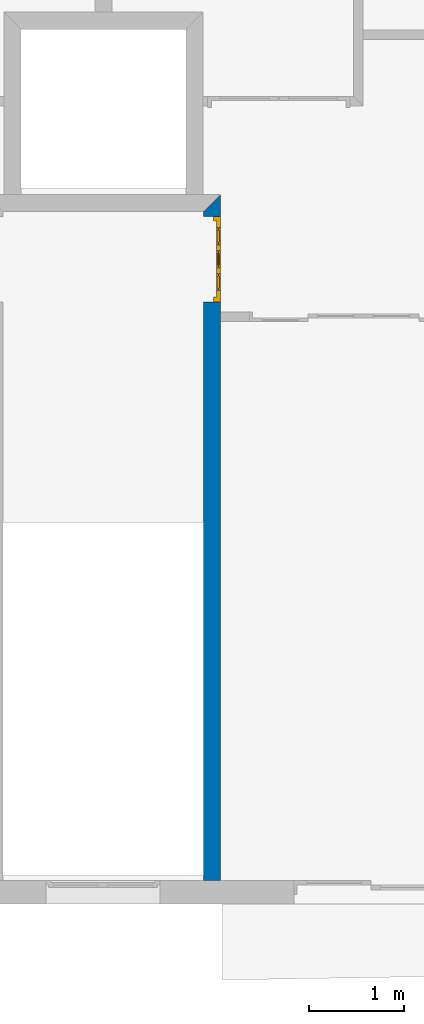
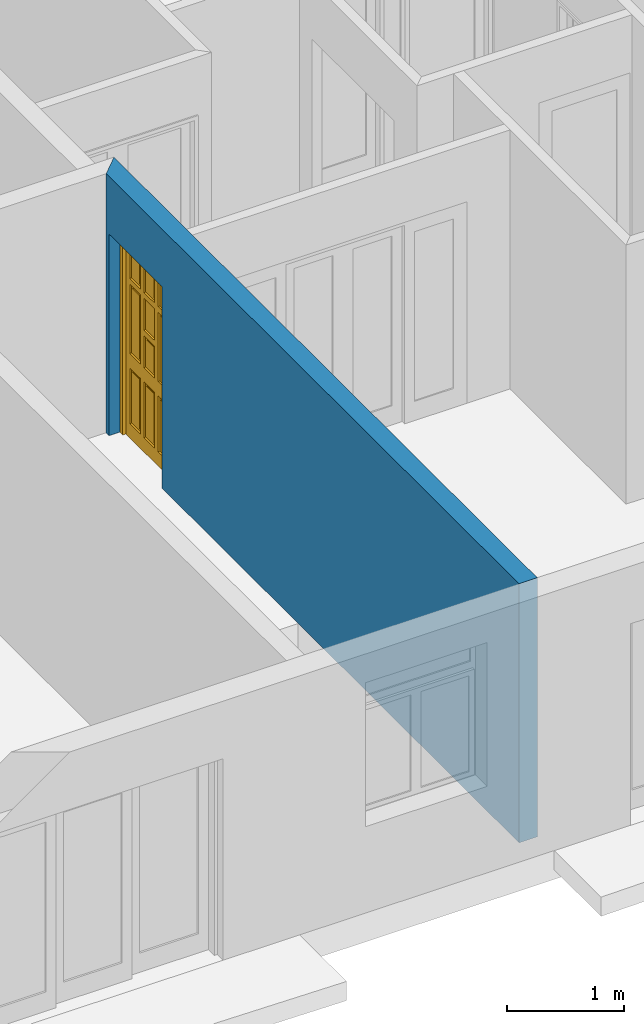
# One storey, part 7 of 12: 1 door, 1 wall, 1 opening.
"""IFC2X3 building model written with IfcOpenShell, lengths in metres."""

from ifc_helpers import new_model, entity, si_unit, converted_unit, direction, frame, frame_2d, origin_with_axes, place, context, project, spatial, polyline, rectangle, outline, extrude, faceted_brep, source, transform, mapped, material, layer, layer_set, layer_usage, type_object, element, fill, save


model = new_model("IFC2X3")

# Units and contexts
context_of_model = context(None, 3, precision=1e-05, world=origin_with_axes(), true_north=direction((6.123234e-17, 1.0)))
plan_context = context("Plan", 3, precision=1e-05, world=origin_with_axes(), true_north=direction((6.123234e-17, 1.0)))
model_context = context("Model", 3, precision=1e-05, world=origin_with_axes(), true_north=direction((6.123234e-17, 1.0)))
ifc_project = project(units=[si_unit("LENGTHUNIT", "METRE"), si_unit("AREAUNIT", "SQUARE_METRE"), si_unit("VOLUMEUNIT", "CUBIC_METRE"), converted_unit("PLANEANGLEUNIT", "DEGREE", entity("IfcPlaneAngleMeasure", 0.017453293), si_unit("PLANEANGLEUNIT", "RADIAN"), dimensions=[0, 0, 0, 0, 0, 0, 0]), si_unit("SOLIDANGLEUNIT", "STERADIAN"), si_unit("MASSUNIT", "GRAM"), si_unit("TIMEUNIT", "SECOND"), si_unit("THERMODYNAMICTEMPERATUREUNIT", "DEGREE_CELSIUS"), si_unit("LUMINOUSINTENSITYUNIT", "LUMEN")], contexts=[context_of_model, plan_context, model_context])

# Site, building, storey
site_placement = place(None, origin_with_axes())
site = spatial("IfcSite", under=ifc_project, at=site_placement, Name="Por defecto Sitio", CompositionType="ELEMENT")
building_placement = place(site_placement, origin_with_axes())
building = spatial("IfcBuilding", under=site, at=building_placement, Name="Por defecto Edificio", CompositionType="ELEMENT")
storey_placement = place(building_placement, frame((0.0, 0.0, 10.2), z_axis=(0.0, 0.0, 1.0), x_axis=(1.0, 0.0, 0.0)))
storey = spatial("IfcBuildingStorey", under=building, at=storey_placement, Name="Tercera", CompositionType="ELEMENT", Elevation=10.2)

# Wall, opening, door
ifc_material = material(Name="Ladrillo común")
ifc_layer = layer(ifc_material, 0.18, ventilated="UNKNOWN")
ifc_layer_set = layer_set([ifc_layer], Name="Ladrillo común")
ifc_layer_usage = layer_usage(ifc_layer_set, "AXIS2", "POSITIVE", 0.0)
wall_type = type_object("IfcWallType", Name="Ladrillo común", PredefinedType="NOTDEFINED")
wall_placement = place(storey_placement, frame((9.0691698, 7.2976562, 0.0), z_axis=(0.0, 0.0, 1.0), x_axis=(0.0, -1.0, 0.0)))
wall = element("IfcWallStandardCase", 1, at=wall_placement, inside=storey, type_object=wall_type, material=ifc_layer_usage, Name="Muro-010", context=context_of_model, shape_type="SweptSolid", body=[
    extrude(outline(polyline([(0.0, 0.0), (7.0476562, 0.0), (7.0476562, 0.18), (-0.18, 0.18), (0.0, 0.0)])), origin_with_axes(), (0.0, 0.0, 1.0), 2.7),
])
opening_placement = place(wall_placement, frame((0.5, 0.0, 0.0), z_axis=(0.0, 0.0, 1.0), x_axis=(1.0, 0.0, 0.0)))
opening = element("IfcOpeningElement", 2, at=opening_placement, cuts=wall, ObjectType="Opening", context=model_context, shape_type="SweptSolid", body=[
    extrude(rectangle(XDim=0.9, YDim=2.1, at=frame_2d((0.0, 1.05), x_axis=(-1.0, 0.0))), frame((0.0, 0.0, 0.0), z_axis=(0.0, 1.0, 0.0), x_axis=(-1.0, 0.0, 0.0)), (0.0, 0.0, 1.0), 0.18),
])
door_style = type_object("IfcDoorStyle", Name="P1 Entrada 12", ConstructionType="NOTDEFINED", OperationType="SINGLE_SWING_RIGHT", ParameterTakesPrecedence=False, Sizeable=False)
shared_shape = source(origin_with_axes(), model_context, "Body", "Brep", [
    faceted_brep([(0.05, 0.031, 0.0), (0.05, 0.031, 2.05), (0.05, 0.0, 2.05), (0.05, 0.0, 0.0), (0.038, 0.031, 2.05), (0.038, 0.031, 0.0), (0.038, 0.075, 2.05), (0.0, 0.075, 2.05), (0.0, 0.0, 2.05), (0.0, 0.0, 0.0), (0.0, 0.075, 0.0), (0.038, 0.075, 0.0)], [[[0, 1, 2, 3]], [[4, 1, 0, 5]], [[4, 6, 7, 8, 2, 1]], [[9, 3, 2, 8]], [[5, 0, 3, 9, 10, 11]], [[6, 4, 5, 11]], [[6, 11, 10, 7]], [[8, 7, 10, 9]]]),
    faceted_brep([(0.862, 0.031, 2.05), (0.85, 0.031, 2.05), (0.85, 0.0, 2.05), (0.9, 0.0, 2.05), (0.9, 0.075, 2.05), (0.862, 0.075, 2.05), (0.862, 0.031, 0.0), (0.85, 0.031, 0.0), (0.85, 0.0, 0.0), (0.9, 0.0, 0.0), (0.9, 0.075, 0.0), (0.862, 0.075, 0.0)], [[[0, 1, 2, 3, 4, 5]], [[1, 0, 6, 7]], [[1, 7, 8, 2]], [[8, 9, 3, 2]], [[9, 10, 4, 3]], [[11, 5, 4, 10]], [[0, 5, 11, 6]], [[6, 11, 10, 9, 8, 7]]]),
    faceted_brep([(0.038, 0.075, 2.062), (0.038, 0.075, 2.05), (0.0, 0.075, 2.05), (0.0, 0.075, 2.1), (0.9, 0.075, 2.1), (0.9, 0.075, 2.05), (0.862, 0.075, 2.05), (0.862, 0.075, 2.062), (0.038, 0.031, 2.062), (0.038, 0.031, 2.05), (0.05, 0.031, 2.05), (0.05, 0.0, 2.05), (0.0, 0.0, 2.05), (0.0, 0.0, 2.1), (0.9, 0.0, 2.1), (0.9, 0.0, 2.05), (0.862, 0.031, 2.05), (0.85, 0.0, 2.05), (0.85, 0.031, 2.05), (0.862, 0.031, 2.062)], [[[0, 1, 2, 3, 4, 5, 6, 7]], [[1, 0, 8, 9]], [[9, 10, 11, 12, 2, 1]], [[13, 3, 2, 12]], [[14, 4, 3, 13]], [[15, 5, 4, 14]], [[16, 6, 5, 15, 17, 18]], [[7, 6, 16, 19]], [[0, 7, 19, 8]], [[16, 18, 10, 9, 8, 19]], [[10, 18, 17, 11]], [[14, 13, 12, 11, 17, 15]]]),
    faceted_brep([(0.862, 0.075, 0.15), (0.862, 0.031, 0.15), (0.782, 0.031, 0.15), (0.782, 0.075, 0.15), (0.862, 0.075, 1.952), (0.862, 0.031, 1.952), (0.782, 0.031, 1.952), (0.782, 0.031, 1.6618667), (0.782, 0.031, 1.6018667), (0.782, 0.031, 0.88), (0.782, 0.031, 0.73), (0.782, 0.075, 0.73), (0.782, 0.075, 0.88), (0.782, 0.075, 1.6018667), (0.782, 0.075, 1.6618667), (0.782, 0.075, 1.952)], [[[0, 1, 2, 3]], [[4, 5, 1, 0]], [[1, 5, 6, 7, 8, 9, 10, 2]], [[3, 2, 10, 11]], [[0, 3, 11, 12, 13, 14, 15, 4]], [[15, 6, 5, 4]], [[14, 7, 6, 15]], [[13, 8, 7, 14]], [[12, 9, 8, 13]], [[11, 10, 9, 12]]]),
    faceted_brep([(0.038, 0.075, 0.15), (0.038, 0.031, 0.15), (0.038, 0.031, 1.952), (0.038, 0.075, 1.952), (0.118, 0.075, 0.15), (0.118, 0.031, 0.15), (0.118, 0.031, 0.73), (0.118, 0.031, 0.88), (0.118, 0.031, 1.6018667), (0.118, 0.031, 1.6618667), (0.118, 0.031, 1.952), (0.118, 0.075, 1.952), (0.118, 0.075, 1.6618667), (0.118, 0.075, 1.6018667), (0.118, 0.075, 0.88), (0.118, 0.075, 0.73)], [[[0, 1, 2, 3]], [[4, 5, 1, 0]], [[1, 5, 6, 7, 8, 9, 10, 2]], [[3, 2, 10, 11]], [[0, 3, 11, 12, 13, 14, 15, 4]], [[15, 6, 5, 4]], [[14, 7, 6, 15]], [[13, 8, 7, 14]], [[12, 9, 8, 13]], [[11, 10, 9, 12]]]),
    faceted_brep([(0.862, 0.075, 0.0), (0.862, 0.031, 0.0), (0.038, 0.031, 0.0), (0.038, 0.075, 0.0), (0.862, 0.075, 0.15), (0.862, 0.031, 0.15), (0.782, 0.031, 0.15), (0.60066667, 0.031, 0.15), (0.54066667, 0.031, 0.15), (0.35933333, 0.031, 0.15), (0.29933333, 0.031, 0.15), (0.118, 0.031, 0.15), (0.038, 0.031, 0.15), (0.038, 0.075, 0.15), (0.118, 0.075, 0.15), (0.29933333, 0.075, 0.15), (0.35933333, 0.075, 0.15), (0.54066667, 0.075, 0.15), (0.60066667, 0.075, 0.15), (0.782, 0.075, 0.15)], [[[0, 1, 2, 3]], [[4, 5, 1, 0]], [[1, 5, 6, 7, 8, 9, 10, 11, 12, 2]], [[3, 2, 12, 13]], [[0, 3, 13, 14, 15, 16, 17, 18, 19, 4]], [[19, 6, 5, 4]], [[18, 7, 6, 19]], [[17, 8, 7, 18]], [[16, 9, 8, 17]], [[15, 10, 9, 16]], [[14, 11, 10, 15]], [[13, 12, 11, 14]]]),
    faceted_brep([(0.862, 0.075, 2.062), (0.862, 0.031, 2.062), (0.862, 0.031, 1.952), (0.862, 0.075, 1.952), (0.038, 0.075, 2.062), (0.038, 0.031, 2.062), (0.038, 0.031, 1.952), (0.118, 0.031, 1.952), (0.29933333, 0.031, 1.952), (0.35933333, 0.031, 1.952), (0.54066667, 0.031, 1.952), (0.60066667, 0.031, 1.952), (0.782, 0.031, 1.952), (0.782, 0.075, 1.952), (0.60066667, 0.075, 1.952), (0.54066667, 0.075, 1.952), (0.35933333, 0.075, 1.952), (0.29933333, 0.075, 1.952), (0.118, 0.075, 1.952), (0.038, 0.075, 1.952)], [[[0, 1, 2, 3]], [[4, 5, 1, 0]], [[1, 5, 6, 7, 8, 9, 10, 11, 12, 2]], [[3, 2, 12, 13]], [[0, 3, 13, 14, 15, 16, 17, 18, 19, 4]], [[19, 6, 5, 4]], [[18, 7, 6, 19]], [[17, 8, 7, 18]], [[16, 9, 8, 17]], [[15, 10, 9, 16]], [[14, 11, 10, 15]], [[13, 12, 11, 14]]]),
    faceted_brep([(0.54066667, 0.075, 0.15), (0.54066667, 0.031, 0.15), (0.54066667, 0.031, 0.73), (0.54066667, 0.075, 0.73), (0.60066667, 0.075, 0.15), (0.60066667, 0.031, 0.15), (0.60066667, 0.031, 0.73), (0.60066667, 0.075, 0.73)], [[[0, 1, 2, 3]], [[4, 5, 1, 0]], [[1, 5, 6, 2]], [[3, 2, 6, 7]], [[0, 3, 7, 4]], [[7, 6, 5, 4]]]),
    faceted_brep([(0.54066667, 0.075, 0.88), (0.54066667, 0.031, 0.88), (0.54066667, 0.031, 1.2109333), (0.54066667, 0.075, 1.2109333), (0.60066667, 0.075, 0.88), (0.60066667, 0.031, 0.88), (0.60066667, 0.031, 1.6018667), (0.54066667, 0.031, 1.6018667), (0.54066667, 0.031, 1.2709333), (0.54066667, 0.075, 1.2709333), (0.54066667, 0.075, 1.6018667), (0.60066667, 0.075, 1.6018667)], [[[0, 1, 2, 3]], [[4, 5, 1, 0]], [[1, 5, 6, 7, 8, 2]], [[3, 2, 8, 9]], [[0, 3, 9, 10, 11, 4]], [[11, 6, 5, 4]], [[10, 7, 6, 11]], [[9, 8, 7, 10]]]),
    faceted_brep([(0.54066667, 0.075, 1.6618667), (0.54066667, 0.031, 1.6618667), (0.54066667, 0.031, 1.952), (0.54066667, 0.075, 1.952), (0.60066667, 0.075, 1.6618667), (0.60066667, 0.031, 1.6618667), (0.60066667, 0.031, 1.952), (0.60066667, 0.075, 1.952)], [[[0, 1, 2, 3]], [[4, 5, 1, 0]], [[1, 5, 6, 2]], [[3, 2, 6, 7]], [[0, 3, 7, 4]], [[7, 6, 5, 4]]]),
    faceted_brep([(0.29933333, 0.075, 0.15), (0.29933333, 0.031, 0.15), (0.29933333, 0.031, 0.73), (0.29933333, 0.075, 0.73), (0.35933333, 0.075, 0.15), (0.35933333, 0.031, 0.15), (0.35933333, 0.031, 0.73), (0.35933333, 0.075, 0.73)], [[[0, 1, 2, 3]], [[4, 5, 1, 0]], [[1, 5, 6, 2]], [[3, 2, 6, 7]], [[0, 3, 7, 4]], [[7, 6, 5, 4]]]),
    faceted_brep([(0.29933333, 0.075, 0.88), (0.29933333, 0.031, 0.88), (0.29933333, 0.031, 1.6018667), (0.29933333, 0.075, 1.6018667), (0.35933333, 0.075, 0.88), (0.35933333, 0.031, 0.88), (0.35933333, 0.031, 1.2109333), (0.35933333, 0.031, 1.2709333), (0.35933333, 0.031, 1.6018667), (0.35933333, 0.075, 1.6018667), (0.35933333, 0.075, 1.2709333), (0.35933333, 0.075, 1.2109333)], [[[0, 1, 2, 3]], [[4, 5, 1, 0]], [[1, 5, 6, 7, 8, 2]], [[3, 2, 8, 9]], [[0, 3, 9, 10, 11, 4]], [[11, 6, 5, 4]], [[10, 7, 6, 11]], [[9, 8, 7, 10]]]),
    faceted_brep([(0.29933333, 0.075, 1.6618667), (0.29933333, 0.031, 1.6618667), (0.29933333, 0.031, 1.952), (0.29933333, 0.075, 1.952), (0.35933333, 0.075, 1.6618667), (0.35933333, 0.031, 1.6618667), (0.35933333, 0.031, 1.952), (0.35933333, 0.075, 1.952)], [[[0, 1, 2, 3]], [[4, 5, 1, 0]], [[1, 5, 6, 2]], [[3, 2, 6, 7]], [[0, 3, 7, 4]], [[7, 6, 5, 4]]]),
    faceted_brep([(0.782, 0.075, 1.6018667), (0.782, 0.031, 1.6018667), (0.60066667, 0.031, 1.6018667), (0.60066667, 0.075, 1.6018667), (0.782, 0.075, 1.6618667), (0.782, 0.031, 1.6618667), (0.60066667, 0.031, 1.6618667), (0.54066667, 0.031, 1.6618667), (0.35933333, 0.031, 1.6618667), (0.29933333, 0.031, 1.6618667), (0.118, 0.031, 1.6618667), (0.118, 0.031, 1.6018667), (0.29933333, 0.031, 1.6018667), (0.35933333, 0.031, 1.6018667), (0.54066667, 0.031, 1.6018667), (0.54066667, 0.075, 1.6018667), (0.35933333, 0.075, 1.6018667), (0.29933333, 0.075, 1.6018667), (0.118, 0.075, 1.6018667), (0.118, 0.075, 1.6618667), (0.29933333, 0.075, 1.6618667), (0.35933333, 0.075, 1.6618667), (0.54066667, 0.075, 1.6618667), (0.60066667, 0.075, 1.6618667)], [[[0, 1, 2, 3]], [[4, 5, 1, 0]], [[1, 5, 6, 7, 8, 9, 10, 11, 12, 13, 14, 2]], [[3, 2, 14, 15]], [[0, 3, 15, 16, 17, 18, 19, 20, 21, 22, 23, 4]], [[23, 6, 5, 4]], [[22, 7, 6, 23]], [[21, 8, 7, 22]], [[20, 9, 8, 21]], [[19, 10, 9, 20]], [[18, 11, 10, 19]], [[17, 12, 11, 18]], [[16, 13, 12, 17]], [[15, 14, 13, 16]]]),
    faceted_brep([(0.35933333, 0.075, 1.2109333), (0.35933333, 0.031, 1.2109333), (0.35933333, 0.031, 1.2709333), (0.35933333, 0.075, 1.2709333), (0.54066667, 0.075, 1.2109333), (0.54066667, 0.031, 1.2109333), (0.54066667, 0.031, 1.2709333), (0.54066667, 0.075, 1.2709333)], [[[0, 1, 2, 3]], [[4, 5, 1, 0]], [[1, 5, 6, 2]], [[3, 2, 6, 7]], [[0, 3, 7, 4]], [[7, 6, 5, 4]]]),
    faceted_brep([(0.782, 0.075, 0.73), (0.782, 0.031, 0.73), (0.60066667, 0.031, 0.73), (0.60066667, 0.075, 0.73), (0.782, 0.075, 0.88), (0.782, 0.031, 0.88), (0.60066667, 0.031, 0.88), (0.54066667, 0.031, 0.88), (0.35933333, 0.031, 0.88), (0.29933333, 0.031, 0.88), (0.118, 0.031, 0.88), (0.118, 0.031, 0.73), (0.29933333, 0.031, 0.73), (0.35933333, 0.031, 0.73), (0.54066667, 0.031, 0.73), (0.54066667, 0.075, 0.73), (0.35933333, 0.075, 0.73), (0.29933333, 0.075, 0.73), (0.118, 0.075, 0.73), (0.118, 0.075, 0.88), (0.29933333, 0.075, 0.88), (0.35933333, 0.075, 0.88), (0.54066667, 0.075, 0.88), (0.60066667, 0.075, 0.88)], [[[0, 1, 2, 3]], [[4, 5, 1, 0]], [[1, 5, 6, 7, 8, 9, 10, 11, 12, 13, 14, 2]], [[3, 2, 14, 15]], [[0, 3, 15, 16, 17, 18, 19, 20, 21, 22, 23, 4]], [[23, 6, 5, 4]], [[22, 7, 6, 23]], [[21, 8, 7, 22]], [[20, 9, 8, 21]], [[19, 10, 9, 20]], [[18, 11, 10, 19]], [[17, 12, 11, 18]], [[16, 13, 12, 17]], [[15, 14, 13, 16]]]),
    faceted_brep([(0.782, 0.058, 0.15), (0.782, 0.048, 0.15), (0.60066667, 0.048, 0.15), (0.60066667, 0.058, 0.15), (0.782, 0.058, 0.73), (0.782, 0.048, 0.73), (0.60066667, 0.048, 0.73), (0.60066667, 0.058, 0.73)], [[[0, 1, 2, 3]], [[4, 5, 1, 0]], [[1, 5, 6, 2]], [[3, 2, 6, 7]], [[0, 3, 7, 4]], [[7, 6, 5, 4]]]),
    faceted_brep([(0.54066667, 0.058, 0.15), (0.54066667, 0.048, 0.15), (0.35933333, 0.048, 0.15), (0.35933333, 0.058, 0.15), (0.54066667, 0.058, 0.73), (0.54066667, 0.048, 0.73), (0.35933333, 0.048, 0.73), (0.35933333, 0.058, 0.73)], [[[0, 1, 2, 3]], [[4, 5, 1, 0]], [[1, 5, 6, 2]], [[3, 2, 6, 7]], [[0, 3, 7, 4]], [[7, 6, 5, 4]]]),
    faceted_brep([(0.29933333, 0.058, 0.15), (0.29933333, 0.048, 0.15), (0.118, 0.048, 0.15), (0.118, 0.058, 0.15), (0.29933333, 0.058, 0.73), (0.29933333, 0.048, 0.73), (0.118, 0.048, 0.73), (0.118, 0.058, 0.73)], [[[0, 1, 2, 3]], [[4, 5, 1, 0]], [[1, 5, 6, 2]], [[3, 2, 6, 7]], [[0, 3, 7, 4]], [[7, 6, 5, 4]]]),
    faceted_brep([(0.782, 0.058, 1.6618667), (0.782, 0.048, 1.6618667), (0.60066667, 0.048, 1.6618667), (0.60066667, 0.058, 1.6618667), (0.782, 0.058, 1.952), (0.782, 0.048, 1.952), (0.60066667, 0.048, 1.952), (0.60066667, 0.058, 1.952)], [[[0, 1, 2, 3]], [[4, 5, 1, 0]], [[1, 5, 6, 2]], [[3, 2, 6, 7]], [[0, 3, 7, 4]], [[7, 6, 5, 4]]]),
    faceted_brep([(0.54066667, 0.058, 1.6618667), (0.54066667, 0.048, 1.6618667), (0.35933333, 0.048, 1.6618667), (0.35933333, 0.058, 1.6618667), (0.54066667, 0.058, 1.952), (0.54066667, 0.048, 1.952), (0.35933333, 0.048, 1.952), (0.35933333, 0.058, 1.952)], [[[0, 1, 2, 3]], [[4, 5, 1, 0]], [[1, 5, 6, 2]], [[3, 2, 6, 7]], [[0, 3, 7, 4]], [[7, 6, 5, 4]]]),
    faceted_brep([(0.29933333, 0.058, 1.6618667), (0.29933333, 0.048, 1.6618667), (0.118, 0.048, 1.6618667), (0.118, 0.058, 1.6618667), (0.29933333, 0.058, 1.952), (0.29933333, 0.048, 1.952), (0.118, 0.048, 1.952), (0.118, 0.058, 1.952)], [[[0, 1, 2, 3]], [[4, 5, 1, 0]], [[1, 5, 6, 2]], [[3, 2, 6, 7]], [[0, 3, 7, 4]], [[7, 6, 5, 4]]]),
    faceted_brep([(0.782, 0.058, 0.88), (0.782, 0.048, 0.88), (0.60066667, 0.048, 0.88), (0.60066667, 0.058, 0.88), (0.782, 0.058, 1.6018667), (0.782, 0.048, 1.6018667), (0.60066667, 0.048, 1.6018667), (0.60066667, 0.058, 1.6018667)], [[[0, 1, 2, 3]], [[4, 5, 1, 0]], [[1, 5, 6, 2]], [[3, 2, 6, 7]], [[0, 3, 7, 4]], [[7, 6, 5, 4]]]),
    faceted_brep([(0.54066667, 0.058, 0.88), (0.54066667, 0.048, 0.88), (0.35933333, 0.048, 0.88), (0.35933333, 0.058, 0.88), (0.54066667, 0.058, 1.2109333), (0.54066667, 0.048, 1.2109333), (0.35933333, 0.048, 1.2109333), (0.35933333, 0.058, 1.2109333)], [[[0, 1, 2, 3]], [[4, 5, 1, 0]], [[1, 5, 6, 2]], [[3, 2, 6, 7]], [[0, 3, 7, 4]], [[7, 6, 5, 4]]]),
    faceted_brep([(0.29933333, 0.058, 0.88), (0.29933333, 0.048, 0.88), (0.118, 0.048, 0.88), (0.118, 0.058, 0.88), (0.29933333, 0.058, 1.6018667), (0.29933333, 0.048, 1.6018667), (0.118, 0.048, 1.6018667), (0.118, 0.058, 1.6018667)], [[[0, 1, 2, 3]], [[4, 5, 1, 0]], [[1, 5, 6, 2]], [[3, 2, 6, 7]], [[0, 3, 7, 4]], [[7, 6, 5, 4]]]),
    faceted_brep([(0.54066667, 0.058, 1.2709333), (0.54066667, 0.048, 1.2709333), (0.35933333, 0.048, 1.2709333), (0.35933333, 0.058, 1.2709333), (0.54066667, 0.058, 1.6018667), (0.54066667, 0.048, 1.6018667), (0.35933333, 0.048, 1.6018667), (0.35933333, 0.058, 1.6018667)], [[[0, 1, 2, 3]], [[4, 5, 1, 0]], [[1, 5, 6, 2]], [[3, 2, 6, 7]], [[0, 3, 7, 4]], [[7, 6, 5, 4]]]),
    faceted_brep([(0.752, 0.066, 0.18), (0.752, 0.058, 0.18), (0.63066667, 0.058, 0.18), (0.63066667, 0.066, 0.18), (0.752, 0.066, 0.7), (0.752, 0.058, 0.7), (0.63066667, 0.058, 0.7), (0.63066667, 0.066, 0.7)], [[[0, 1, 2, 3]], [[4, 5, 1, 0]], [[1, 5, 6, 2]], [[3, 2, 6, 7]], [[0, 3, 7, 4]], [[7, 6, 5, 4]]]),
    faceted_brep([(0.51066667, 0.066, 0.18), (0.51066667, 0.058, 0.18), (0.38933333, 0.058, 0.18), (0.38933333, 0.066, 0.18), (0.51066667, 0.066, 0.7), (0.51066667, 0.058, 0.7), (0.38933333, 0.058, 0.7), (0.38933333, 0.066, 0.7)], [[[0, 1, 2, 3]], [[4, 5, 1, 0]], [[1, 5, 6, 2]], [[3, 2, 6, 7]], [[0, 3, 7, 4]], [[7, 6, 5, 4]]]),
    faceted_brep([(0.26933333, 0.066, 0.18), (0.26933333, 0.058, 0.18), (0.148, 0.058, 0.18), (0.148, 0.066, 0.18), (0.26933333, 0.066, 0.7), (0.26933333, 0.058, 0.7), (0.148, 0.058, 0.7), (0.148, 0.066, 0.7)], [[[0, 1, 2, 3]], [[4, 5, 1, 0]], [[1, 5, 6, 2]], [[3, 2, 6, 7]], [[0, 3, 7, 4]], [[7, 6, 5, 4]]]),
    faceted_brep([(0.752, 0.066, 1.6918667), (0.752, 0.058, 1.6918667), (0.63066667, 0.058, 1.6918667), (0.63066667, 0.066, 1.6918667), (0.752, 0.066, 1.922), (0.752, 0.058, 1.922), (0.63066667, 0.058, 1.922), (0.63066667, 0.066, 1.922)], [[[0, 1, 2, 3]], [[4, 5, 1, 0]], [[1, 5, 6, 2]], [[3, 2, 6, 7]], [[0, 3, 7, 4]], [[7, 6, 5, 4]]]),
    faceted_brep([(0.51066667, 0.066, 1.6918667), (0.51066667, 0.058, 1.6918667), (0.38933333, 0.058, 1.6918667), (0.38933333, 0.066, 1.6918667), (0.51066667, 0.066, 1.922), (0.51066667, 0.058, 1.922), (0.38933333, 0.058, 1.922), (0.38933333, 0.066, 1.922)], [[[0, 1, 2, 3]], [[4, 5, 1, 0]], [[1, 5, 6, 2]], [[3, 2, 6, 7]], [[0, 3, 7, 4]], [[7, 6, 5, 4]]]),
    faceted_brep([(0.26933333, 0.066, 1.6918667), (0.26933333, 0.058, 1.6918667), (0.148, 0.058, 1.6918667), (0.148, 0.066, 1.6918667), (0.26933333, 0.066, 1.922), (0.26933333, 0.058, 1.922), (0.148, 0.058, 1.922), (0.148, 0.066, 1.922)], [[[0, 1, 2, 3]], [[4, 5, 1, 0]], [[1, 5, 6, 2]], [[3, 2, 6, 7]], [[0, 3, 7, 4]], [[7, 6, 5, 4]]]),
    faceted_brep([(0.752, 0.066, 0.91), (0.752, 0.058, 0.91), (0.63066667, 0.058, 0.91), (0.63066667, 0.066, 0.91), (0.752, 0.066, 1.5718667), (0.752, 0.058, 1.5718667), (0.63066667, 0.058, 1.5718667), (0.63066667, 0.066, 1.5718667)], [[[0, 1, 2, 3]], [[4, 5, 1, 0]], [[1, 5, 6, 2]], [[3, 2, 6, 7]], [[0, 3, 7, 4]], [[7, 6, 5, 4]]]),
    faceted_brep([(0.51066667, 0.066, 0.91), (0.51066667, 0.058, 0.91), (0.38933333, 0.058, 0.91), (0.38933333, 0.066, 0.91), (0.51066667, 0.066, 1.1809333), (0.51066667, 0.058, 1.1809333), (0.38933333, 0.058, 1.1809333), (0.38933333, 0.066, 1.1809333)], [[[0, 1, 2, 3]], [[4, 5, 1, 0]], [[1, 5, 6, 2]], [[3, 2, 6, 7]], [[0, 3, 7, 4]], [[7, 6, 5, 4]]]),
    faceted_brep([(0.26933333, 0.066, 0.91), (0.26933333, 0.058, 0.91), (0.148, 0.058, 0.91), (0.148, 0.066, 0.91), (0.26933333, 0.066, 1.5718667), (0.26933333, 0.058, 1.5718667), (0.148, 0.058, 1.5718667), (0.148, 0.066, 1.5718667)], [[[0, 1, 2, 3]], [[4, 5, 1, 0]], [[1, 5, 6, 2]], [[3, 2, 6, 7]], [[0, 3, 7, 4]], [[7, 6, 5, 4]]]),
    faceted_brep([(0.752, 0.048, 0.18), (0.752, 0.04, 0.18), (0.63066667, 0.04, 0.18), (0.63066667, 0.048, 0.18), (0.752, 0.048, 0.7), (0.752, 0.04, 0.7), (0.63066667, 0.04, 0.7), (0.63066667, 0.048, 0.7)], [[[0, 1, 2, 3]], [[4, 5, 1, 0]], [[1, 5, 6, 2]], [[3, 2, 6, 7]], [[0, 3, 7, 4]], [[7, 6, 5, 4]]]),
    faceted_brep([(0.51066667, 0.048, 0.18), (0.51066667, 0.04, 0.18), (0.38933333, 0.04, 0.18), (0.38933333, 0.048, 0.18), (0.51066667, 0.048, 0.7), (0.51066667, 0.04, 0.7), (0.38933333, 0.04, 0.7), (0.38933333, 0.048, 0.7)], [[[0, 1, 2, 3]], [[4, 5, 1, 0]], [[1, 5, 6, 2]], [[3, 2, 6, 7]], [[0, 3, 7, 4]], [[7, 6, 5, 4]]]),
    faceted_brep([(0.26933333, 0.048, 0.18), (0.26933333, 0.04, 0.18), (0.148, 0.04, 0.18), (0.148, 0.048, 0.18), (0.26933333, 0.048, 0.7), (0.26933333, 0.04, 0.7), (0.148, 0.04, 0.7), (0.148, 0.048, 0.7)], [[[0, 1, 2, 3]], [[4, 5, 1, 0]], [[1, 5, 6, 2]], [[3, 2, 6, 7]], [[0, 3, 7, 4]], [[7, 6, 5, 4]]]),
    faceted_brep([(0.752, 0.048, 1.6918667), (0.752, 0.04, 1.6918667), (0.63066667, 0.04, 1.6918667), (0.63066667, 0.048, 1.6918667), (0.752, 0.048, 1.922), (0.752, 0.04, 1.922), (0.63066667, 0.04, 1.922), (0.63066667, 0.048, 1.922)], [[[0, 1, 2, 3]], [[4, 5, 1, 0]], [[1, 5, 6, 2]], [[3, 2, 6, 7]], [[0, 3, 7, 4]], [[7, 6, 5, 4]]]),
    faceted_brep([(0.51066667, 0.048, 1.6918667), (0.51066667, 0.04, 1.6918667), (0.38933333, 0.04, 1.6918667), (0.38933333, 0.048, 1.6918667), (0.51066667, 0.048, 1.922), (0.51066667, 0.04, 1.922), (0.38933333, 0.04, 1.922), (0.38933333, 0.048, 1.922)], [[[0, 1, 2, 3]], [[4, 5, 1, 0]], [[1, 5, 6, 2]], [[3, 2, 6, 7]], [[0, 3, 7, 4]], [[7, 6, 5, 4]]]),
    faceted_brep([(0.26933333, 0.048, 1.6918667), (0.26933333, 0.04, 1.6918667), (0.148, 0.04, 1.6918667), (0.148, 0.048, 1.6918667), (0.26933333, 0.048, 1.922), (0.26933333, 0.04, 1.922), (0.148, 0.04, 1.922), (0.148, 0.048, 1.922)], [[[0, 1, 2, 3]], [[4, 5, 1, 0]], [[1, 5, 6, 2]], [[3, 2, 6, 7]], [[0, 3, 7, 4]], [[7, 6, 5, 4]]]),
    faceted_brep([(0.752, 0.048, 0.91), (0.752, 0.04, 0.91), (0.63066667, 0.04, 0.91), (0.63066667, 0.048, 0.91), (0.752, 0.048, 1.5718667), (0.752, 0.04, 1.5718667), (0.63066667, 0.04, 1.5718667), (0.63066667, 0.048, 1.5718667)], [[[0, 1, 2, 3]], [[4, 5, 1, 0]], [[1, 5, 6, 2]], [[3, 2, 6, 7]], [[0, 3, 7, 4]], [[7, 6, 5, 4]]]),
    faceted_brep([(0.51066667, 0.048, 0.91), (0.51066667, 0.04, 0.91), (0.38933333, 0.04, 0.91), (0.38933333, 0.048, 0.91), (0.51066667, 0.048, 1.1809333), (0.51066667, 0.04, 1.1809333), (0.38933333, 0.04, 1.1809333), (0.38933333, 0.048, 1.1809333)], [[[0, 1, 2, 3]], [[4, 5, 1, 0]], [[1, 5, 6, 2]], [[3, 2, 6, 7]], [[0, 3, 7, 4]], [[7, 6, 5, 4]]]),
    faceted_brep([(0.26933333, 0.048, 0.91), (0.26933333, 0.04, 0.91), (0.148, 0.04, 0.91), (0.148, 0.048, 0.91), (0.26933333, 0.048, 1.5718667), (0.26933333, 0.04, 1.5718667), (0.148, 0.04, 1.5718667), (0.148, 0.048, 1.5718667)], [[[0, 1, 2, 3]], [[4, 5, 1, 0]], [[1, 5, 6, 2]], [[3, 2, 6, 7]], [[0, 3, 7, 4]], [[7, 6, 5, 4]]]),
])
door_placement = place(opening_placement, frame((-0.45, 0.105, 0.0), z_axis=(0.0, 0.0, 1.0), x_axis=(1.0, 0.0, 0.0)))
door = element("IfcDoor", 3, at=door_placement, inside=storey, type_object=door_style, Name="P14", OverallHeight=2.1, OverallWidth=0.9, context=model_context, shape_type="MappedRepresentation", body=[
    mapped(shared_shape, transform((0.0, 0.0, 0.0), scale=1.0)),
])
fill(opening, door)

save(model, "model.ifc")
